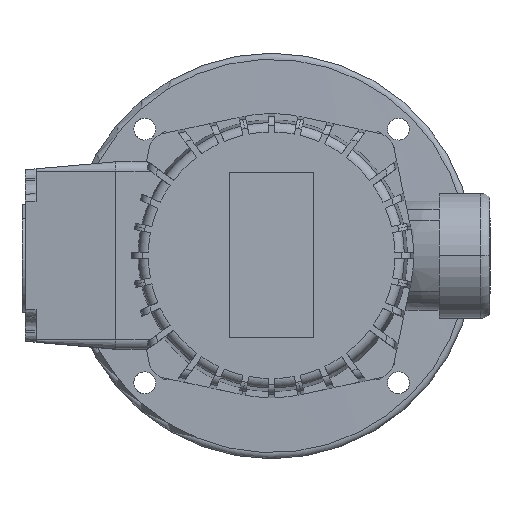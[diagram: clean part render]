
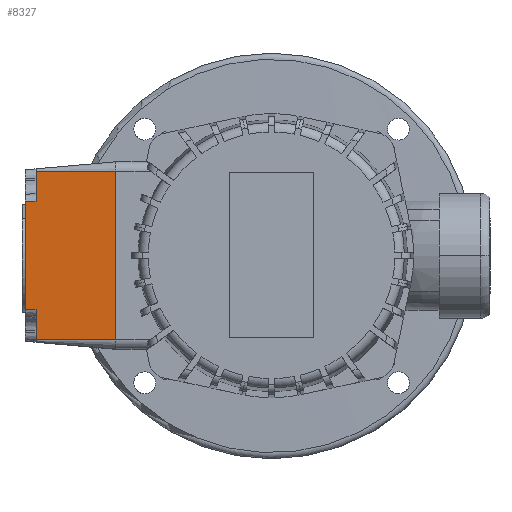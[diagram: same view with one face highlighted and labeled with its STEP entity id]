
A CAD part, top view. The second image highlights one B-rep face of the part: STEP entity #8327.
In plain terms, the highlighted planar face has unit normal (-0.087, 0, 0.996).
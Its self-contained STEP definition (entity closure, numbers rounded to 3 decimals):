
#3515=VERTEX_POINT('',#10240);
#3593=VERTEX_POINT('',#10322);
#3861=EDGE_CURVE('',#3593,#6547,#10619,.T.);
#4423=EDGE_CURVE('',#9253,#7957,#11238,.T.);
#4569=EDGE_CURVE('',#6547,#3515,#11396,.T.);
#6439=VERTEX_POINT('',#13462);
#6547=VERTEX_POINT('',#13579);
#6675=VERTEX_POINT('',#13716);
#6905=VERTEX_POINT('',#13961);
#7605=EDGE_CURVE('',#6675,#6439,#14724,.T.);
#7703=EDGE_CURVE('',#6905,#3593,#14828,.T.);
#7957=VERTEX_POINT('',#15110);
#8037=EDGE_CURVE('',#9253,#6439,#15199,.T.);
#8327=ADVANCED_FACE('',(#15520),#15521,.T.);
#8593=EDGE_CURVE('',#7957,#6905,#15815,.T.);
#9253=VERTEX_POINT('',#16533);
#9707=EDGE_CURVE('',#3515,#6675,#17031,.T.);
#10240=CARTESIAN_POINT('',(-79.0,-17.326,59.963));
#10322=CARTESIAN_POINT('',(-75.5,17.353,60.269));
#10619=B_SPLINE_CURVE_WITH_KNOTS('',2,(#18475,#18476,#18477),.UNSPECIFIED.,.F.,.F.,(3,3),(0.0,3.513),.UNSPECIFIED.);
#11238=LINE('',#19922,#19923);
#11396=LINE('',#20277,#20278);
#13462=CARTESIAN_POINT('',(-75.5,-27.0,60.269));
#13579=CARTESIAN_POINT('',(-79.0,17.326,59.963));
#13716=CARTESIAN_POINT('',(-75.5,-17.353,60.269));
#13961=CARTESIAN_POINT('',(-75.5,27.0,60.269));
#14724=LINE('',#27886,#27887);
#14828=LINE('',#28134,#28135);
#15110=CARTESIAN_POINT('',(-50.0,27.0,62.5));
#15199=LINE('',#28887,#28888);
#15520=FACE_OUTER_BOUND('',#29794,.T.);
#15521=PLANE('',#29795);
#15815=LINE('',#30455,#30456);
#16533=CARTESIAN_POINT('',(-50.0,-27.0,62.5));
#17031=B_SPLINE_CURVE_WITH_KNOTS('',2,(#33126,#33127,#33128),.UNSPECIFIED.,.F.,.F.,(3,3),(0.0,3.513),.UNSPECIFIED.);
#18475=CARTESIAN_POINT('',(-75.5,17.353,60.269));
#18476=CARTESIAN_POINT('',(-77.297,17.339,60.112));
#18477=CARTESIAN_POINT('',(-79.0,17.326,59.963));
#19922=CARTESIAN_POINT('',(-50.0,-27.0,62.5));
#19923=VECTOR('',#35470,1.0);
#20277=CARTESIAN_POINT('',(-79.0,-27.0,59.963));
#20278=VECTOR('',#35629,1.0);
#27886=CARTESIAN_POINT('',(-75.5,1.189,60.269));
#27887=VECTOR('',#39190,1.0);
#28134=CARTESIAN_POINT('',(-75.5,25.811,60.269));
#28135=VECTOR('',#39291,1.0);
#28887=CARTESIAN_POINT('',(-50.0,-27.0,62.5));
#28888=VECTOR('',#39740,1.0);
#29794=EDGE_LOOP('',(#40111,#40112,#40113,#40114,#40115,#40116,#40117,#40118));
#29795=AXIS2_PLACEMENT_3D('',#40119,#40120,#40121);
#30455=CARTESIAN_POINT('',(-50.0,27.0,62.5));
#30456=VECTOR('',#40449,1.0);
#33126=CARTESIAN_POINT('',(-79.0,-17.326,59.963));
#33127=CARTESIAN_POINT('',(-77.297,-17.339,60.112));
#33128=CARTESIAN_POINT('',(-75.5,-17.353,60.269));
#35470=DIRECTION('',(0.0,1.0,0.0));
#35629=DIRECTION('',(0.0,-1.0,0.0));
#39190=DIRECTION('',(0.0,-1.0,0.0));
#39291=DIRECTION('',(0.0,-1.0,0.0));
#39740=DIRECTION('',(-0.996,0.,-0.087));
#40111=ORIENTED_EDGE('',*,*,#7605,.T.);
#40112=ORIENTED_EDGE('',*,*,#8037,.F.);
#40113=ORIENTED_EDGE('',*,*,#4423,.T.);
#40114=ORIENTED_EDGE('',*,*,#8593,.T.);
#40115=ORIENTED_EDGE('',*,*,#7703,.T.);
#40116=ORIENTED_EDGE('',*,*,#3861,.T.);
#40117=ORIENTED_EDGE('',*,*,#4569,.T.);
#40118=ORIENTED_EDGE('',*,*,#9707,.T.);
#40119=CARTESIAN_POINT('',(-50.0,27.0,62.5));
#40120=DIRECTION('',(-0.087,0.0,0.996));
#40121=DIRECTION('',(0.0,1.0,0.0));
#40449=DIRECTION('',(-0.996,0.0,-0.087));
